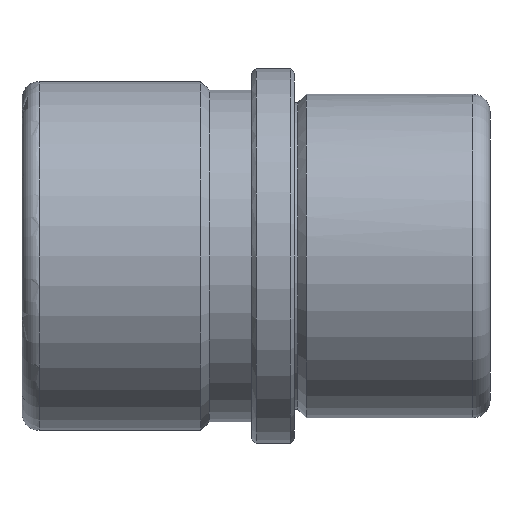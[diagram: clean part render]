
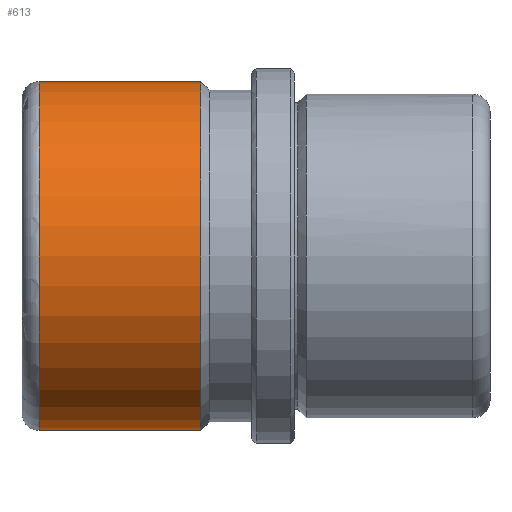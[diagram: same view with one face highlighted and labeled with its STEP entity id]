
A CAD part, front view. The second image highlights one B-rep face of the part: STEP entity #613.
In plain terms, the highlighted cylindrical face has radius 20.5 mm (diameter 41 mm), a partial arc.
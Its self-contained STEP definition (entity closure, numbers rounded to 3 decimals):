
#398=CARTESIAN_POINT('Line Origine',(23.,0.,20.5)) ;
#402=CARTESIAN_POINT('Vertex',(-11.,0.,20.5)) ;
#404=CARTESIAN_POINT('Vertex',(-30.,0.,20.5)) ;
#418=CARTESIAN_POINT('Vertex',(-11.,0.,-20.5)) ;
#421=CARTESIAN_POINT('Line Origine',(23.,0.,-20.5)) ;
#425=CARTESIAN_POINT('Vertex',(-30.,0.,-20.5)) ;
#576=CARTESIAN_POINT('Axis2P3D Location',(23.,0.,0.)) ;
#581=CARTESIAN_POINT('Axis2P3D Location',(-11.,0.,0.)) ;
#585=CARTESIAN_POINT('Vertex',(-11.,-20.5,0.)) ;
#588=CARTESIAN_POINT('Axis2P3D Location',(-11.,0.,0.)) ;
#593=CARTESIAN_POINT('Axis2P3D Location',(-30.,0.,0.)) ;
#597=CARTESIAN_POINT('Vertex',(-30.,-20.5,0.)) ;
#600=CARTESIAN_POINT('Axis2P3D Location',(-30.,0.,0.)) ;
#399=DIRECTION('Vector Direction',(-1.,0.,0.)) ;
#422=DIRECTION('Vector Direction',(-1.,0.,0.)) ;
#577=DIRECTION('Axis2P3D Direction',(-1.,-0.,-0.)) ;
#578=DIRECTION('Axis2P3D XDirection',(0.,0.,-1.)) ;
#582=DIRECTION('Axis2P3D Direction',(-1.,-0.,-0.)) ;
#589=DIRECTION('Axis2P3D Direction',(-1.,-0.,-0.)) ;
#594=DIRECTION('Axis2P3D Direction',(-1.,-0.,-0.)) ;
#601=DIRECTION('Axis2P3D Direction',(-1.,-0.,-0.)) ;
#579=AXIS2_PLACEMENT_3D('Cylinder Axis2P3D',#576,#577,#578) ;
#583=AXIS2_PLACEMENT_3D('Circle Axis2P3D',#581,#582,$) ;
#590=AXIS2_PLACEMENT_3D('Circle Axis2P3D',#588,#589,$) ;
#595=AXIS2_PLACEMENT_3D('Circle Axis2P3D',#593,#594,$) ;
#602=AXIS2_PLACEMENT_3D('Circle Axis2P3D',#600,#601,$) ;
#606=ORIENTED_EDGE('',*,*,#427,.T.) ;
#607=ORIENTED_EDGE('',*,*,#587,.F.) ;
#608=ORIENTED_EDGE('',*,*,#592,.F.) ;
#609=ORIENTED_EDGE('',*,*,#406,.T.) ;
#610=ORIENTED_EDGE('',*,*,#599,.T.) ;
#611=ORIENTED_EDGE('',*,*,#604,.T.) ;
#400=VECTOR('Line Direction',#399,1.) ;
#423=VECTOR('Line Direction',#422,1.) ;
#613=ADVANCED_FACE('CF 641 25 x 55',(#612),#580,.T.) ;
#584=CIRCLE('generated circle',#583,20.5) ;
#591=CIRCLE('generated circle',#590,20.5) ;
#596=CIRCLE('generated circle',#595,20.5) ;
#603=CIRCLE('generated circle',#602,20.5) ;
#580=CYLINDRICAL_SURFACE('generated cylinder',#579,20.5) ;
#406=EDGE_CURVE('',#403,#405,#401,.T.) ;
#427=EDGE_CURVE('',#426,#419,#424,.F.) ;
#587=EDGE_CURVE('',#586,#419,#584,.F.) ;
#592=EDGE_CURVE('',#403,#586,#591,.F.) ;
#599=EDGE_CURVE('',#405,#598,#596,.F.) ;
#604=EDGE_CURVE('',#598,#426,#603,.F.) ;
#605=EDGE_LOOP('',(#606,#607,#608,#609,#610,#611)) ;
#612=FACE_OUTER_BOUND('',#605,.T.) ;
#401=LINE('Line',#398,#400) ;
#424=LINE('Line',#421,#423) ;
#403=VERTEX_POINT('',#402) ;
#405=VERTEX_POINT('',#404) ;
#419=VERTEX_POINT('',#418) ;
#426=VERTEX_POINT('',#425) ;
#586=VERTEX_POINT('',#585) ;
#598=VERTEX_POINT('',#597) ;
